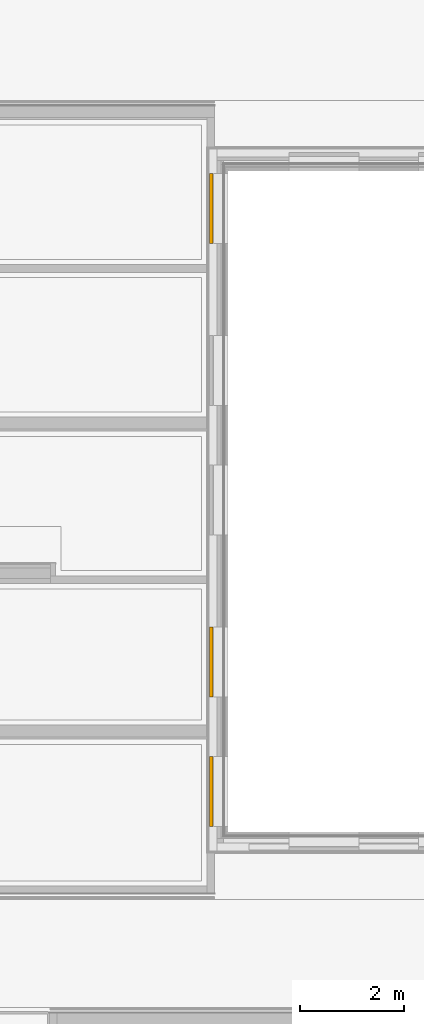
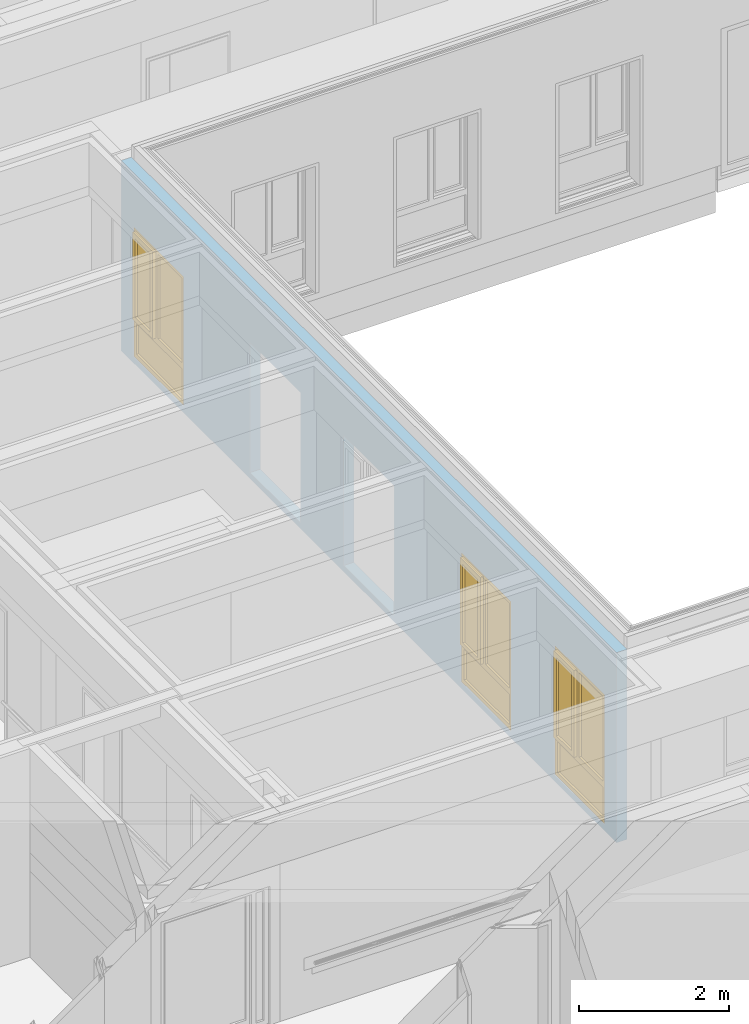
# One storey, part 77 of 207: 3 windows, 5 openings, plus 1 element that does not belong to this part.
"""IFC4 building model written with IfcOpenShell, lengths in metres."""

from ifc_helpers import new_model, entity, si_unit, converted_unit, derived_unit, frame, frame_2d, origin, origin_with_axes, place, context, subcontext, project, spatial, polyline, rectangle, outline, extrude, closed_shell, open_shell, surface_model, source, transform, mapped, material, element, fill, save


model = new_model("IFC4")

# Units and contexts
model_context = context("Model", 3, precision=1e-05, world=origin())
body_context = subcontext(model_context, "Body", "Model", "MODEL_VIEW")
ifc_project = project(units=[si_unit("LENGTHUNIT", "METRE"), si_unit("AREAUNIT", "SQUARE_METRE"), si_unit("VOLUMEUNIT", "CUBIC_METRE"), si_unit("MASSUNIT", "GRAM", prefix="KILO"), converted_unit("PLANEANGLEUNIT", "DEGREE", entity("IfcPlaneAngleMeasure", 0.0174532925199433), si_unit("PLANEANGLEUNIT", "RADIAN"), dimensions=[0, 0, 0, 0, 0, 0, 0]), derived_unit("THERMALTRANSMITTANCEUNIT", [(si_unit("POWERUNIT", "WATT"), 1), (si_unit("THERMODYNAMICTEMPERATUREUNIT", "KELVIN"), -1), (si_unit("LENGTHUNIT", "METRE"), -2)]), derived_unit("VOLUMETRICFLOWRATEUNIT", [(si_unit("LENGTHUNIT", "METRE"), 3), (converted_unit("TIMEUNIT", "hour", entity("IfcTimeMeasure", 3600.0), si_unit("TIMEUNIT", "SECOND"), dimensions=[0, 0, 1, 0, 0, 0, 0]), -1), (si_unit("LENGTHUNIT", "METRE"), -1)])], contexts=[model_context])

# Site, building, storey
site_placement = place(None, origin())
site = spatial("IfcSite", under=ifc_project, at=site_placement, Name="Psychiatrie Neubau Wunstorf", CompositionType="ELEMENT")
building_placement = place(site_placement, origin())
building = spatial("IfcBuilding", under=site, at=building_placement, Name="Neubau H2 Stationsgebäude", CompositionType="ELEMENT")
storey_placement = place(building_placement, frame((0.0, 0.0, -0.2)))
storey = spatial("IfcBuildingStorey", under=building, at=storey_placement, Name="H2 Ebene 0", CompositionType="ELEMENT", Elevation=-0.2)

# Wall, openings, windows
ifc_material = material(Name="WA-HD")
wall_placement = place(storey_placement, frame((15.675, 20.84, 0.5), z_axis=(0.0, 0.0, 1.0), x_axis=(-1.3748975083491e-16, -1.0, 0.0)))
wall = element("IfcWall", 1, at=wall_placement, inside=storey, material=ifc_material, context=body_context, shape_type="SweptSolid", body=[
    extrude(rectangle(XDim=13.23, YDim=0.16, at=frame_2d((6.615, 0.08), x_axis=(1.0, 0.0))), origin_with_axes(), (0.0, 0.0, 1.0), 3.1),
])
opening_1_placement = place(wall_placement, frame((12.915, 0.16, 0.1), z_axis=(0.0, -1.0, 0.0), x_axis=(0.0, 0.0, 1.0)))
opening_1 = element("IfcOpeningElement", 2, at=opening_1_placement, cuts=wall, Name="Fensteröffnung", ObjectType="Opening", context=body_context, shape_type="SweptSolid", body=[
    extrude(outline(polyline([(2.12, 1.35), (2.12, 0.0), (0.0, 0.0), (0.0, 1.35), (2.12, 1.35)])), origin_with_axes(), (0.0, 0.0, 1.0), 0.16),
])
opening_2_placement = place(wall_placement, frame((10.415, 0.16, 0.1), z_axis=(0.0, -1.0, 0.0), x_axis=(0.0, 0.0, 1.0)))
opening_2 = element("IfcOpeningElement", 3, at=opening_2_placement, cuts=wall, Name="Fensteröffnung", ObjectType="Opening", context=body_context, shape_type="SweptSolid", body=[
    extrude(outline(polyline([(2.12, 1.35), (2.12, 0.0), (0.0, 0.0), (0.0, 1.35), (2.12, 1.35)])), origin_with_axes(), (0.0, 0.0, 1.0), 0.16),
])
opening_3_placement = place(wall_placement, frame((1.66500000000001, 0.16, 0.1), z_axis=(0.0, -1.0, 0.0), x_axis=(0.0, 0.0, 1.0)))
opening_3 = element("IfcOpeningElement", 4, at=opening_3_placement, cuts=wall, Name="Fensteröffnung", ObjectType="Opening", context=body_context, shape_type="SweptSolid", body=[
    extrude(outline(polyline([(2.12, 1.35), (2.12, 0.0), (0.0, 0.0), (0.0, 1.35), (2.12, 1.35)])), origin_with_axes(), (0.0, 0.0, 1.0), 0.16),
])
opening_4_placement = place(wall_placement, frame((4.79, 0.160000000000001, 0.1), z_axis=(0.0, -1.0, 0.0), x_axis=(0.0, 0.0, 1.0)))
element("IfcOpeningElement", 5, at=opening_4_placement, cuts=wall, Name="Fensteröffnung", ObjectType="Opening", context=body_context, shape_type="SweptSolid", body=[
    extrude(outline(polyline([(2.12, 1.35), (2.12, 0.0), (0.0, 0.0), (0.0, 1.35), (2.12, 1.35)])), origin_with_axes(), (0.0, 0.0, 1.0), 0.16),
])
opening_5_placement = place(wall_placement, frame((7.29, 0.159999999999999, 0.1), z_axis=(0.0, -1.0, 0.0), x_axis=(0.0, 0.0, 1.0)))
element("IfcOpeningElement", 6, at=opening_5_placement, cuts=wall, Name="Fensteröffnung", ObjectType="Opening", context=body_context, shape_type="SweptSolid", body=[
    extrude(outline(polyline([(2.12, 1.35), (2.12, 0.0), (0.0, 0.0), (0.0, 1.35), (2.12, 1.35)])), origin_with_axes(), (0.0, 0.0, 1.0), 0.16),
])
shared_shape_1 = source(origin_with_axes(), body_context, "Body", "SurfaceModel", [
    surface_model("IfcShellBasedSurfaceModel", [(0.0, 0.0, 2.12), (0.0700000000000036, 0.0, 2.12), (0.0700000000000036, 0.0, 0.0), (0.0, 0.0, 0.0), (0.0, 0.0699999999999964, 0.0), (0.0700000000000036, 0.0699999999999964, 0.0), (0.0700000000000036, 0.0699999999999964, 2.12), (0.0, 0.0699999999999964, 2.12)], [closed_shell([[[0, 1, 2, 3]], [[4, 5, 6, 7]], [[3, 4, 7, 0]], [[2, 5, 4, 3]], [[1, 6, 5, 2]], [[0, 7, 6, 1]]], orient=[[False], [False], [False], [False], [False], [False]])]),
    surface_model("IfcShellBasedSurfaceModel", [(1.28, 0.0, 2.12), (1.35, 0.0, 2.12), (1.35, 0.0, 0.0), (1.28, 0.0, 0.0), (1.28, 0.0699999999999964, 0.0), (1.35, 0.0699999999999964, 0.0), (1.35, 0.0699999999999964, 2.12), (1.28, 0.0699999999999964, 2.12)], [closed_shell([[[0, 1, 2, 3]], [[4, 5, 6, 7]], [[3, 4, 7, 0]], [[2, 5, 4, 3]], [[1, 6, 5, 2]], [[0, 7, 6, 1]]], orient=[[False], [False], [False], [False], [False], [False]])]),
    surface_model("IfcShellBasedSurfaceModel", [(0.0700000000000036, 0.0, 0.07), (1.28, 0.0, 0.07), (1.28, 0.0, 0.0), (0.0700000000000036, 0.0, 0.0), (0.0700000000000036, 0.0699999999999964, 0.0), (1.28, 0.0699999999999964, 0.0), (1.28, 0.0699999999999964, 0.07), (0.0700000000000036, 0.0699999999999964, 0.07)], [closed_shell([[[0, 1, 2, 3]], [[4, 5, 6, 7]], [[3, 4, 7, 0]], [[2, 5, 4, 3]], [[1, 6, 5, 2]], [[0, 7, 6, 1]]], orient=[[False], [False], [False], [False], [False], [False]])]),
    surface_model("IfcShellBasedSurfaceModel", [(0.0700000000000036, 0.0, 2.12), (1.28, 0.0, 2.12), (1.28, 0.0, 2.05), (0.0700000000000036, 0.0, 2.05), (0.0700000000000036, 0.0699999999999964, 2.05), (1.28, 0.0699999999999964, 2.05), (1.28, 0.0699999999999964, 2.12), (0.0700000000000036, 0.0699999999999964, 2.12)], [closed_shell([[[0, 1, 2, 3]], [[4, 5, 6, 7]], [[3, 4, 7, 0]], [[2, 5, 4, 3]], [[1, 6, 5, 2]], [[0, 7, 6, 1]]], orient=[[False], [False], [False], [False], [False], [False]])]),
    surface_model("IfcShellBasedSurfaceModel", [(0.0700000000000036, 0.0, 0.67), (1.28, 0.0, 0.67), (1.28, 0.0, 0.57), (0.0700000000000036, 0.0, 0.57), (0.0700000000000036, 0.0699999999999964, 0.57), (1.28, 0.0699999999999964, 0.57), (1.28, 0.0699999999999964, 0.67), (0.0700000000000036, 0.0699999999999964, 0.67)], [closed_shell([[[0, 1, 2, 3]], [[4, 5, 6, 7]], [[3, 4, 7, 0]], [[2, 5, 4, 3]], [[1, 6, 5, 2]], [[0, 7, 6, 1]]], orient=[[False], [False], [False], [False], [False], [False]])]),
    surface_model("IfcShellBasedSurfaceModel", [(0.0700000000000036, 0.0349999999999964, 0.07), (0.0700000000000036, 0.0349999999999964, 0.57), (1.28, 0.0349999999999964, 0.57), (1.28, 0.0349999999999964, 0.07)], [open_shell([[[0, 1, 2, 3]]], orient=[[False]])]),
    surface_model("IfcShellBasedSurfaceModel", [(0.570000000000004, 0.0, 2.05), (0.640000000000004, 0.0, 2.05), (0.640000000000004, 0.0, 0.67), (0.570000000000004, 0.0, 0.67), (0.570000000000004, 0.0699999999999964, 0.67), (0.640000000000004, 0.0699999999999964, 0.67), (0.640000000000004, 0.0699999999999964, 2.05), (0.570000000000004, 0.0699999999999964, 2.05)], [closed_shell([[[0, 1, 2, 3]], [[4, 5, 6, 7]], [[3, 4, 7, 0]], [[2, 5, 4, 3]], [[1, 6, 5, 2]], [[0, 7, 6, 1]]], orient=[[False], [False], [False], [False], [False], [False]])]),
    surface_model("IfcShellBasedSurfaceModel", [(0.0500000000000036, -0.0500000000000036, 2.07), (0.120000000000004, -0.0500000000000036, 2.07), (0.120000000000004, -0.0500000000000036, 0.65), (0.0500000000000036, -0.0500000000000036, 0.65), (0.0500000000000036, 0.0199999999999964, 0.65), (0.120000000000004, 0.0199999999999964, 0.65), (0.120000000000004, 0.0199999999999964, 2.07), (0.0500000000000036, 0.0199999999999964, 2.07)], [closed_shell([[[0, 1, 2, 3]], [[4, 5, 6, 7]], [[3, 4, 7, 0]], [[2, 5, 4, 3]], [[1, 6, 5, 2]], [[0, 7, 6, 1]]], orient=[[False], [False], [False], [False], [False], [False]])]),
    surface_model("IfcShellBasedSurfaceModel", [(0.520000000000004, -0.0500000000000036, 2.07), (0.590000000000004, -0.0500000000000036, 2.07), (0.590000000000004, -0.0500000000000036, 0.65), (0.520000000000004, -0.0500000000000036, 0.65), (0.520000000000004, 0.0199999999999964, 0.65), (0.590000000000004, 0.0199999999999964, 0.65), (0.590000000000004, 0.0199999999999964, 2.07), (0.520000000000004, 0.0199999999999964, 2.07)], [closed_shell([[[0, 1, 2, 3]], [[4, 5, 6, 7]], [[3, 4, 7, 0]], [[2, 5, 4, 3]], [[1, 6, 5, 2]], [[0, 7, 6, 1]]], orient=[[False], [False], [False], [False], [False], [False]])]),
    surface_model("IfcShellBasedSurfaceModel", [(0.120000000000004, -0.0500000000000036, 0.72), (0.520000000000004, -0.0500000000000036, 0.72), (0.520000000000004, -0.0500000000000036, 0.65), (0.120000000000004, -0.0500000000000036, 0.65), (0.120000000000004, 0.0199999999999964, 0.65), (0.520000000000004, 0.0199999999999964, 0.65), (0.520000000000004, 0.0199999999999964, 0.72), (0.120000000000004, 0.0199999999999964, 0.72)], [closed_shell([[[0, 1, 2, 3]], [[4, 5, 6, 7]], [[3, 4, 7, 0]], [[2, 5, 4, 3]], [[1, 6, 5, 2]], [[0, 7, 6, 1]]], orient=[[False], [False], [False], [False], [False], [False]])]),
    surface_model("IfcShellBasedSurfaceModel", [(0.120000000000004, -0.0500000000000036, 2.07), (0.520000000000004, -0.0500000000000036, 2.07), (0.520000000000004, -0.0500000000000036, 2.0), (0.120000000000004, -0.0500000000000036, 2.0), (0.120000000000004, 0.0199999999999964, 2.0), (0.520000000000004, 0.0199999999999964, 2.0), (0.520000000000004, 0.0199999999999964, 2.07), (0.120000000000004, 0.0199999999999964, 2.07)], [closed_shell([[[0, 1, 2, 3]], [[4, 5, 6, 7]], [[3, 4, 7, 0]], [[2, 5, 4, 3]], [[1, 6, 5, 2]], [[0, 7, 6, 1]]], orient=[[False], [False], [False], [False], [False], [False]])]),
    surface_model("IfcShellBasedSurfaceModel", [(0.640000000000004, 0.0349999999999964, 0.67), (0.640000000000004, 0.0349999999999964, 2.05), (1.28, 0.0349999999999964, 2.05), (1.28, 0.0349999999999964, 0.67)], [open_shell([[[0, 1, 2, 3]]], orient=[[False]])]),
    surface_model("IfcShellBasedSurfaceModel", [(0.120000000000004, -0.0150000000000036, 0.72), (0.120000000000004, -0.0150000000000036, 2.0), (0.520000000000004, -0.0150000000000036, 2.0), (0.520000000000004, -0.0150000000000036, 0.72)], [open_shell([[[0, 1, 2, 3]]], orient=[[False]])]),
])
window_1_placement = place(opening_1_placement, frame((0.0, 1.35, 0.146), z_axis=(1.0, 0.0, 0.0), x_axis=(0.0, -1.0, -1.3748975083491e-16)))
window_1 = element("IfcWindow", 7, at=window_1_placement, inside=storey, Name="Fenster", OverallHeight=2.12, OverallWidth=1.35, PartitioningType="USERDEFINED", PredefinedType="WINDOW", context=body_context, shape_type="MappedRepresentation", body=[
    mapped(shared_shape_1, transform((0.0, 0.0, 0.0), x_axis=(1.0, 0.0, 0.0), y_axis=(0.0, 1.0, 0.0), z_axis=(0.0, 0.0, 1.0), scale=1.0)),
])
fill(opening_1, window_1)
shared_shape_2 = source(origin_with_axes(), body_context, "Body", "SurfaceModel", [
    surface_model("IfcShellBasedSurfaceModel", [(0.0, 0.0, 2.12), (0.0700000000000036, 0.0, 2.12), (0.0700000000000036, 0.0, 0.0), (0.0, 0.0, 0.0), (0.0, 0.0699999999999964, 0.0), (0.0700000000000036, 0.0699999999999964, 0.0), (0.0700000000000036, 0.0699999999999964, 2.12), (0.0, 0.0699999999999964, 2.12)], [closed_shell([[[0, 1, 2, 3]], [[4, 5, 6, 7]], [[3, 4, 7, 0]], [[2, 5, 4, 3]], [[1, 6, 5, 2]], [[0, 7, 6, 1]]], orient=[[False], [False], [False], [False], [False], [False]])]),
    surface_model("IfcShellBasedSurfaceModel", [(1.28, 0.0, 2.12), (1.35, 0.0, 2.12), (1.35, 0.0, 0.0), (1.28, 0.0, 0.0), (1.28, 0.0699999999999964, 0.0), (1.35, 0.0699999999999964, 0.0), (1.35, 0.0699999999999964, 2.12), (1.28, 0.0699999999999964, 2.12)], [closed_shell([[[0, 1, 2, 3]], [[4, 5, 6, 7]], [[3, 4, 7, 0]], [[2, 5, 4, 3]], [[1, 6, 5, 2]], [[0, 7, 6, 1]]], orient=[[False], [False], [False], [False], [False], [False]])]),
    surface_model("IfcShellBasedSurfaceModel", [(0.0700000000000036, 0.0, 0.07), (1.28, 0.0, 0.07), (1.28, 0.0, 0.0), (0.0700000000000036, 0.0, 0.0), (0.0700000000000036, 0.0699999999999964, 0.0), (1.28, 0.0699999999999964, 0.0), (1.28, 0.0699999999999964, 0.07), (0.0700000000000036, 0.0699999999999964, 0.07)], [closed_shell([[[0, 1, 2, 3]], [[4, 5, 6, 7]], [[3, 4, 7, 0]], [[2, 5, 4, 3]], [[1, 6, 5, 2]], [[0, 7, 6, 1]]], orient=[[False], [False], [False], [False], [False], [False]])]),
    surface_model("IfcShellBasedSurfaceModel", [(0.0700000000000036, 0.0, 2.12), (1.28, 0.0, 2.12), (1.28, 0.0, 2.05), (0.0700000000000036, 0.0, 2.05), (0.0700000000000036, 0.0699999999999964, 2.05), (1.28, 0.0699999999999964, 2.05), (1.28, 0.0699999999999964, 2.12), (0.0700000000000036, 0.0699999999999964, 2.12)], [closed_shell([[[0, 1, 2, 3]], [[4, 5, 6, 7]], [[3, 4, 7, 0]], [[2, 5, 4, 3]], [[1, 6, 5, 2]], [[0, 7, 6, 1]]], orient=[[False], [False], [False], [False], [False], [False]])]),
    surface_model("IfcShellBasedSurfaceModel", [(0.0700000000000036, 0.0, 0.67), (1.28, 0.0, 0.67), (1.28, 0.0, 0.57), (0.0700000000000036, 0.0, 0.57), (0.0700000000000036, 0.0699999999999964, 0.57), (1.28, 0.0699999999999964, 0.57), (1.28, 0.0699999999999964, 0.67), (0.0700000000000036, 0.0699999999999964, 0.67)], [closed_shell([[[0, 1, 2, 3]], [[4, 5, 6, 7]], [[3, 4, 7, 0]], [[2, 5, 4, 3]], [[1, 6, 5, 2]], [[0, 7, 6, 1]]], orient=[[False], [False], [False], [False], [False], [False]])]),
    surface_model("IfcShellBasedSurfaceModel", [(0.0700000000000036, 0.0349999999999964, 0.07), (0.0700000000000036, 0.0349999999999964, 0.57), (1.28, 0.0349999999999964, 0.57), (1.28, 0.0349999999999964, 0.07)], [open_shell([[[0, 1, 2, 3]]], orient=[[False]])]),
    surface_model("IfcShellBasedSurfaceModel", [(0.570000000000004, 0.0, 2.05), (0.640000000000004, 0.0, 2.05), (0.640000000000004, 0.0, 0.67), (0.570000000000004, 0.0, 0.67), (0.570000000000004, 0.0699999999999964, 0.67), (0.640000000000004, 0.0699999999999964, 0.67), (0.640000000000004, 0.0699999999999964, 2.05), (0.570000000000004, 0.0699999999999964, 2.05)], [closed_shell([[[0, 1, 2, 3]], [[4, 5, 6, 7]], [[3, 4, 7, 0]], [[2, 5, 4, 3]], [[1, 6, 5, 2]], [[0, 7, 6, 1]]], orient=[[False], [False], [False], [False], [False], [False]])]),
    surface_model("IfcShellBasedSurfaceModel", [(0.0500000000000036, -0.0500000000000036, 2.07), (0.120000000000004, -0.0500000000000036, 2.07), (0.120000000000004, -0.0500000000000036, 0.65), (0.0500000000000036, -0.0500000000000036, 0.65), (0.0500000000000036, 0.0199999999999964, 0.65), (0.120000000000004, 0.0199999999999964, 0.65), (0.120000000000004, 0.0199999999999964, 2.07), (0.0500000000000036, 0.0199999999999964, 2.07)], [closed_shell([[[0, 1, 2, 3]], [[4, 5, 6, 7]], [[3, 4, 7, 0]], [[2, 5, 4, 3]], [[1, 6, 5, 2]], [[0, 7, 6, 1]]], orient=[[False], [False], [False], [False], [False], [False]])]),
    surface_model("IfcShellBasedSurfaceModel", [(0.520000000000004, -0.0500000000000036, 2.07), (0.590000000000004, -0.0500000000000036, 2.07), (0.590000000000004, -0.0500000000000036, 0.65), (0.520000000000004, -0.0500000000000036, 0.65), (0.520000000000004, 0.0199999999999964, 0.65), (0.590000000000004, 0.0199999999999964, 0.65), (0.590000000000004, 0.0199999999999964, 2.07), (0.520000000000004, 0.0199999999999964, 2.07)], [closed_shell([[[0, 1, 2, 3]], [[4, 5, 6, 7]], [[3, 4, 7, 0]], [[2, 5, 4, 3]], [[1, 6, 5, 2]], [[0, 7, 6, 1]]], orient=[[False], [False], [False], [False], [False], [False]])]),
    surface_model("IfcShellBasedSurfaceModel", [(0.120000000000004, -0.0500000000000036, 0.72), (0.520000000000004, -0.0500000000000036, 0.72), (0.520000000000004, -0.0500000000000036, 0.65), (0.120000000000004, -0.0500000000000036, 0.65), (0.120000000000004, 0.0199999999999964, 0.65), (0.520000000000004, 0.0199999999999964, 0.65), (0.520000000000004, 0.0199999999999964, 0.72), (0.120000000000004, 0.0199999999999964, 0.72)], [closed_shell([[[0, 1, 2, 3]], [[4, 5, 6, 7]], [[3, 4, 7, 0]], [[2, 5, 4, 3]], [[1, 6, 5, 2]], [[0, 7, 6, 1]]], orient=[[False], [False], [False], [False], [False], [False]])]),
    surface_model("IfcShellBasedSurfaceModel", [(0.120000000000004, -0.0500000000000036, 2.07), (0.520000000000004, -0.0500000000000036, 2.07), (0.520000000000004, -0.0500000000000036, 2.0), (0.120000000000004, -0.0500000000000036, 2.0), (0.120000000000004, 0.0199999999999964, 2.0), (0.520000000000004, 0.0199999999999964, 2.0), (0.520000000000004, 0.0199999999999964, 2.07), (0.120000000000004, 0.0199999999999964, 2.07)], [closed_shell([[[0, 1, 2, 3]], [[4, 5, 6, 7]], [[3, 4, 7, 0]], [[2, 5, 4, 3]], [[1, 6, 5, 2]], [[0, 7, 6, 1]]], orient=[[False], [False], [False], [False], [False], [False]])]),
    surface_model("IfcShellBasedSurfaceModel", [(0.640000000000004, 0.0349999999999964, 0.67), (0.640000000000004, 0.0349999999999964, 2.05), (1.28, 0.0349999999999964, 2.05), (1.28, 0.0349999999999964, 0.67)], [open_shell([[[0, 1, 2, 3]]], orient=[[False]])]),
    surface_model("IfcShellBasedSurfaceModel", [(0.120000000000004, -0.0150000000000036, 0.72), (0.120000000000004, -0.0150000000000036, 2.0), (0.520000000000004, -0.0150000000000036, 2.0), (0.520000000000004, -0.0150000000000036, 0.72)], [open_shell([[[0, 1, 2, 3]]], orient=[[False]])]),
])
window_2_placement = place(opening_2_placement, frame((0.0, 1.35, 0.146), z_axis=(1.0, 0.0, 0.0), x_axis=(0.0, -1.0, -1.3748975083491e-16)))
window_2 = element("IfcWindow", 8, at=window_2_placement, inside=storey, Name="Fenster", OverallHeight=2.12, OverallWidth=1.35, PartitioningType="USERDEFINED", PredefinedType="WINDOW", context=body_context, shape_type="MappedRepresentation", body=[
    mapped(shared_shape_2, transform((0.0, 0.0, 0.0), x_axis=(1.0, 0.0, 0.0), y_axis=(0.0, 1.0, 0.0), z_axis=(0.0, 0.0, 1.0), scale=1.0)),
])
fill(opening_2, window_2)
shared_shape_3 = source(origin_with_axes(), body_context, "Body", "SurfaceModel", [
    surface_model("IfcShellBasedSurfaceModel", [(0.0, 0.0, 2.12), (0.0700000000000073, 0.0, 2.12), (0.0700000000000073, 0.0, 0.0), (0.0, 0.0, 0.0), (0.0, 0.0699999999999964, 0.0), (0.0700000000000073, 0.0699999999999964, 0.0), (0.0700000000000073, 0.0699999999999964, 2.12), (0.0, 0.0699999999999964, 2.12)], [closed_shell([[[0, 1, 2, 3]], [[4, 5, 6, 7]], [[3, 4, 7, 0]], [[2, 5, 4, 3]], [[1, 6, 5, 2]], [[0, 7, 6, 1]]], orient=[[False], [False], [False], [False], [False], [False]])]),
    surface_model("IfcShellBasedSurfaceModel", [(1.28000000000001, 0.0, 2.12), (1.35000000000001, 0.0, 2.12), (1.35000000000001, 0.0, 0.0), (1.28000000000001, 0.0, 0.0), (1.28000000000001, 0.0699999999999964, 0.0), (1.35000000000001, 0.0699999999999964, 0.0), (1.35000000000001, 0.0699999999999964, 2.12), (1.28000000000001, 0.0699999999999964, 2.12)], [closed_shell([[[0, 1, 2, 3]], [[4, 5, 6, 7]], [[3, 4, 7, 0]], [[2, 5, 4, 3]], [[1, 6, 5, 2]], [[0, 7, 6, 1]]], orient=[[False], [False], [False], [False], [False], [False]])]),
    surface_model("IfcShellBasedSurfaceModel", [(0.0700000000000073, 0.0, 0.07), (1.28000000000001, 0.0, 0.07), (1.28000000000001, 0.0, 0.0), (0.0700000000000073, 0.0, 0.0), (0.0700000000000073, 0.0699999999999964, 0.0), (1.28000000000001, 0.0699999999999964, 0.0), (1.28000000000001, 0.0699999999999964, 0.07), (0.0700000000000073, 0.0699999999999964, 0.07)], [closed_shell([[[0, 1, 2, 3]], [[4, 5, 6, 7]], [[3, 4, 7, 0]], [[2, 5, 4, 3]], [[1, 6, 5, 2]], [[0, 7, 6, 1]]], orient=[[False], [False], [False], [False], [False], [False]])]),
    surface_model("IfcShellBasedSurfaceModel", [(0.0700000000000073, 0.0, 2.12), (1.28000000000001, 0.0, 2.12), (1.28000000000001, 0.0, 2.05), (0.0700000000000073, 0.0, 2.05), (0.0700000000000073, 0.0699999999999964, 2.05), (1.28000000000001, 0.0699999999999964, 2.05), (1.28000000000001, 0.0699999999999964, 2.12), (0.0700000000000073, 0.0699999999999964, 2.12)], [closed_shell([[[0, 1, 2, 3]], [[4, 5, 6, 7]], [[3, 4, 7, 0]], [[2, 5, 4, 3]], [[1, 6, 5, 2]], [[0, 7, 6, 1]]], orient=[[False], [False], [False], [False], [False], [False]])]),
    surface_model("IfcShellBasedSurfaceModel", [(0.0700000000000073, 0.0, 0.67), (1.28000000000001, 0.0, 0.67), (1.28000000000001, 0.0, 0.57), (0.0700000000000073, 0.0, 0.57), (0.0700000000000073, 0.0699999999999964, 0.57), (1.28000000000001, 0.0699999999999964, 0.57), (1.28000000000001, 0.0699999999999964, 0.67), (0.0700000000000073, 0.0699999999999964, 0.67)], [closed_shell([[[0, 1, 2, 3]], [[4, 5, 6, 7]], [[3, 4, 7, 0]], [[2, 5, 4, 3]], [[1, 6, 5, 2]], [[0, 7, 6, 1]]], orient=[[False], [False], [False], [False], [False], [False]])]),
    surface_model("IfcShellBasedSurfaceModel", [(0.0700000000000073, 0.0349999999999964, 0.07), (0.0700000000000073, 0.0349999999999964, 0.57), (1.28000000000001, 0.0349999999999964, 0.57), (1.28000000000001, 0.0349999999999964, 0.07)], [open_shell([[[0, 1, 2, 3]]], orient=[[False]])]),
    surface_model("IfcShellBasedSurfaceModel", [(0.570000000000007, 0.0, 2.05), (0.640000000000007, 0.0, 2.05), (0.640000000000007, 0.0, 0.67), (0.570000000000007, 0.0, 0.67), (0.570000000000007, 0.0699999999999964, 0.67), (0.640000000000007, 0.0699999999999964, 0.67), (0.640000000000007, 0.0699999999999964, 2.05), (0.570000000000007, 0.0699999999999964, 2.05)], [closed_shell([[[0, 1, 2, 3]], [[4, 5, 6, 7]], [[3, 4, 7, 0]], [[2, 5, 4, 3]], [[1, 6, 5, 2]], [[0, 7, 6, 1]]], orient=[[False], [False], [False], [False], [False], [False]])]),
    surface_model("IfcShellBasedSurfaceModel", [(0.0500000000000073, -0.0500000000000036, 2.07), (0.120000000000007, -0.0500000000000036, 2.07), (0.120000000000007, -0.0500000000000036, 0.65), (0.0500000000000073, -0.0500000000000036, 0.65), (0.0500000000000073, 0.0199999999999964, 0.65), (0.120000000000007, 0.0199999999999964, 0.65), (0.120000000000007, 0.0199999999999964, 2.07), (0.0500000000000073, 0.0199999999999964, 2.07)], [closed_shell([[[0, 1, 2, 3]], [[4, 5, 6, 7]], [[3, 4, 7, 0]], [[2, 5, 4, 3]], [[1, 6, 5, 2]], [[0, 7, 6, 1]]], orient=[[False], [False], [False], [False], [False], [False]])]),
    surface_model("IfcShellBasedSurfaceModel", [(0.520000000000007, -0.0500000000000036, 2.07), (0.590000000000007, -0.0500000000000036, 2.07), (0.590000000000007, -0.0500000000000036, 0.65), (0.520000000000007, -0.0500000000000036, 0.65), (0.520000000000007, 0.0199999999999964, 0.65), (0.590000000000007, 0.0199999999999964, 0.65), (0.590000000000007, 0.0199999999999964, 2.07), (0.520000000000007, 0.0199999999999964, 2.07)], [closed_shell([[[0, 1, 2, 3]], [[4, 5, 6, 7]], [[3, 4, 7, 0]], [[2, 5, 4, 3]], [[1, 6, 5, 2]], [[0, 7, 6, 1]]], orient=[[False], [False], [False], [False], [False], [False]])]),
    surface_model("IfcShellBasedSurfaceModel", [(0.120000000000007, -0.0500000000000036, 0.72), (0.520000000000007, -0.0500000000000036, 0.72), (0.520000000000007, -0.0500000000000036, 0.65), (0.120000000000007, -0.0500000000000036, 0.65), (0.120000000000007, 0.0199999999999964, 0.65), (0.520000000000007, 0.0199999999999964, 0.65), (0.520000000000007, 0.0199999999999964, 0.72), (0.120000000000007, 0.0199999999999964, 0.72)], [closed_shell([[[0, 1, 2, 3]], [[4, 5, 6, 7]], [[3, 4, 7, 0]], [[2, 5, 4, 3]], [[1, 6, 5, 2]], [[0, 7, 6, 1]]], orient=[[False], [False], [False], [False], [False], [False]])]),
    surface_model("IfcShellBasedSurfaceModel", [(0.120000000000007, -0.0500000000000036, 2.07), (0.520000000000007, -0.0500000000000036, 2.07), (0.520000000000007, -0.0500000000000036, 2.0), (0.120000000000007, -0.0500000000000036, 2.0), (0.120000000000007, 0.0199999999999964, 2.0), (0.520000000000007, 0.0199999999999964, 2.0), (0.520000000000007, 0.0199999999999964, 2.07), (0.120000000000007, 0.0199999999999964, 2.07)], [closed_shell([[[0, 1, 2, 3]], [[4, 5, 6, 7]], [[3, 4, 7, 0]], [[2, 5, 4, 3]], [[1, 6, 5, 2]], [[0, 7, 6, 1]]], orient=[[False], [False], [False], [False], [False], [False]])]),
    surface_model("IfcShellBasedSurfaceModel", [(0.640000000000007, 0.0349999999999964, 0.67), (0.640000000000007, 0.0349999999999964, 2.05), (1.28000000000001, 0.0349999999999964, 2.05), (1.28000000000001, 0.0349999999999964, 0.67)], [open_shell([[[0, 1, 2, 3]]], orient=[[False]])]),
    surface_model("IfcShellBasedSurfaceModel", [(0.120000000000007, -0.0150000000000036, 0.72), (0.120000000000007, -0.0150000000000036, 2.0), (0.520000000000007, -0.0150000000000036, 2.0), (0.520000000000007, -0.0150000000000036, 0.72)], [open_shell([[[0, 1, 2, 3]]], orient=[[False]])]),
])
window_3_placement = place(opening_3_placement, frame((0.0, 1.35, 0.146000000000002), z_axis=(1.0, 0.0, 0.0), x_axis=(0.0, -1.0, -1.3748975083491e-16)))
window_3 = element("IfcWindow", 9, at=window_3_placement, inside=storey, Name="Fenster", OverallHeight=2.12, OverallWidth=1.35, PartitioningType="USERDEFINED", PredefinedType="WINDOW", context=body_context, shape_type="MappedRepresentation", body=[
    mapped(shared_shape_3, transform((0.0, 0.0, 0.0), x_axis=(1.0, 0.0, 0.0), y_axis=(0.0, 1.0, 0.0), z_axis=(0.0, 0.0, 1.0), scale=1.0)),
])
fill(opening_3, window_3)

save(model, "model.ifc")
